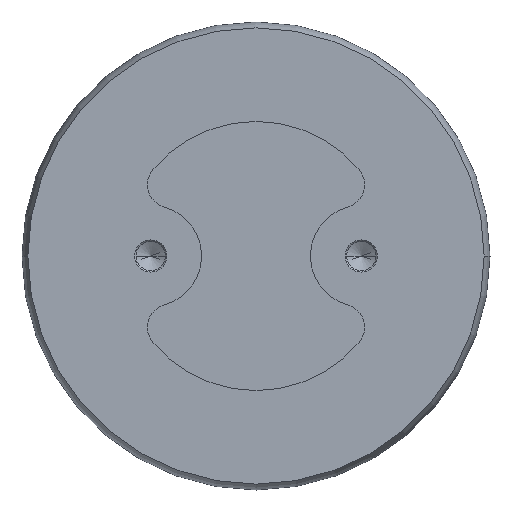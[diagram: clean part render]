
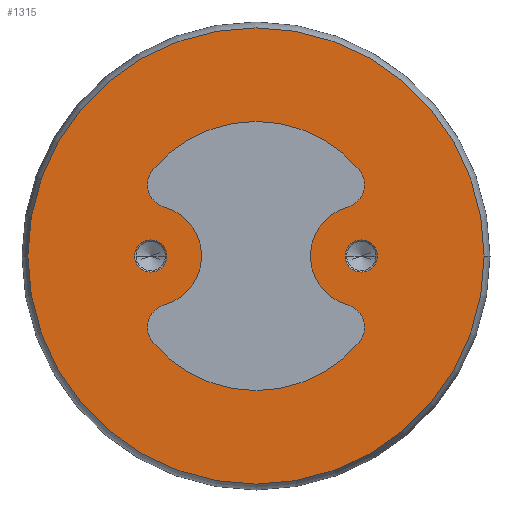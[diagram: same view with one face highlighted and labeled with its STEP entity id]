
A CAD part, front view. The second image highlights one B-rep face of the part: STEP entity #1315.
In plain terms, the highlighted planar face has unit normal (0, -1, 0).
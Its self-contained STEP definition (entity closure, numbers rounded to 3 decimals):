
#334=CARTESIAN_POINT('',(0.,-25.,0.));
#335=DIRECTION('',(0.,1.,0.));
#336=DIRECTION('',(1.,0.,0.));
#337=AXIS2_PLACEMENT_3D('',#334,#335,#336);
#339=CARTESIAN_POINT('',(0.,-25.,0.));
#340=DIRECTION('',(0.,-1.,0.));
#341=DIRECTION('',(1.,0.,0.));
#342=AXIS2_PLACEMENT_3D('',#339,#340,#341);
#344=CARTESIAN_POINT('',(18.,-25.,0.));
#345=DIRECTION('',(0.,-1.,0.));
#346=DIRECTION('',(1.,0.,0.));
#347=AXIS2_PLACEMENT_3D('',#344,#345,#346);
#349=CARTESIAN_POINT('',(18.,-25.,0.));
#350=DIRECTION('',(0.,-1.,0.));
#351=DIRECTION('',(-1.,0.,0.));
#352=AXIS2_PLACEMENT_3D('',#349,#350,#351);
#354=CARTESIAN_POINT('',(-18.,-25.,0.));
#355=DIRECTION('',(0.,1.,0.));
#356=DIRECTION('',(-1.,0.,0.));
#357=AXIS2_PLACEMENT_3D('',#354,#355,#356);
#359=CARTESIAN_POINT('',(-18.,-25.,0.));
#360=DIRECTION('',(0.,1.,0.));
#361=DIRECTION('',(1.,0.,0.));
#362=AXIS2_PLACEMENT_3D('',#359,#360,#361);
#364=CARTESIAN_POINT('',(14.555,-25.,-12.213));
#365=DIRECTION('',(0.,-1.,0.));
#366=DIRECTION('',(0.766,0.,-0.643));
#367=AXIS2_PLACEMENT_3D('',#364,#365,#366);
#369=CARTESIAN_POINT('',(18.001,-25.,0.));
#370=DIRECTION('',(0.,-1.,0.));
#371=DIRECTION('',(-0.272,0.,0.962));
#372=AXIS2_PLACEMENT_3D('',#369,#370,#371);
#374=CARTESIAN_POINT('',(14.555,-25.,12.213));
#375=DIRECTION('',(0.,-1.,0.));
#376=DIRECTION('',(0.272,0.,-0.962));
#377=AXIS2_PLACEMENT_3D('',#374,#375,#376);
#379=CARTESIAN_POINT('',(0.,-25.,0.));
#380=DIRECTION('',(0.,-1.,0.));
#381=DIRECTION('',(0.766,0.,0.643));
#382=AXIS2_PLACEMENT_3D('',#379,#380,#381);
#384=CARTESIAN_POINT('',(-14.555,-25.,12.213));
#385=DIRECTION('',(0.,-1.,0.));
#386=DIRECTION('',(-0.766,0.,0.643));
#387=AXIS2_PLACEMENT_3D('',#384,#385,#386);
#389=CARTESIAN_POINT('',(-18.001,-25.,0.));
#390=DIRECTION('',(0.,-1.,0.));
#391=DIRECTION('',(0.272,0.,-0.962));
#392=AXIS2_PLACEMENT_3D('',#389,#390,#391);
#394=CARTESIAN_POINT('',(-14.555,-25.,-12.213));
#395=DIRECTION('',(0.,-1.,0.));
#396=DIRECTION('',(-0.272,0.,0.962));
#397=AXIS2_PLACEMENT_3D('',#394,#395,#396);
#399=CARTESIAN_POINT('',(0.,-25.,0.));
#400=DIRECTION('',(0.,-1.,0.));
#401=DIRECTION('',(-0.766,0.,-0.643));
#402=AXIS2_PLACEMENT_3D('',#399,#400,#401);
#588=CARTESIAN_POINT('',(39.,-25.,0.));
#590=VERTEX_POINT('',#588);
#596=CARTESIAN_POINT('',(-39.,-25.,0.));
#598=VERTEX_POINT('',#596);
#646=CARTESIAN_POINT('',(20.75,-25.,0.));
#647=VERTEX_POINT('',#646);
#648=CARTESIAN_POINT('',(15.25,-25.,0.));
#649=VERTEX_POINT('',#648);
#660=CARTESIAN_POINT('',(-20.75,-25.,0.));
#661=VERTEX_POINT('',#660);
#662=CARTESIAN_POINT('',(-15.25,-25.,0.));
#663=VERTEX_POINT('',#662);
#720=CARTESIAN_POINT('',(17.619,-25.,-14.784));
#721=CARTESIAN_POINT('',(15.641,-25.,-8.363));
#722=VERTEX_POINT('',#720);
#723=VERTEX_POINT('',#721);
#724=CARTESIAN_POINT('',(15.641,-25.,8.363));
#725=VERTEX_POINT('',#724);
#726=CARTESIAN_POINT('',(17.619,-25.,14.784));
#727=VERTEX_POINT('',#726);
#728=CARTESIAN_POINT('',(-17.619,-25.,14.784));
#729=VERTEX_POINT('',#728);
#730=CARTESIAN_POINT('',(-15.641,-25.,8.363));
#731=VERTEX_POINT('',#730);
#732=CARTESIAN_POINT('',(-15.641,-25.,-8.363));
#733=VERTEX_POINT('',#732);
#734=CARTESIAN_POINT('',(-17.619,-25.,-14.784));
#735=VERTEX_POINT('',#734);
#1276=CARTESIAN_POINT('',(0.,-25.,0.));
#1277=DIRECTION('',(0.,-1.,0.));
#1278=DIRECTION('',(-1.,0.,0.));
#1279=AXIS2_PLACEMENT_3D('',#1276,#1277,#1278);
#1280=PLANE('166',#1279);
#1281=ORIENTED_EDGE('203',*,*,#1258,.T.);
#1282=ORIENTED_EDGE('169',*,*,#1269,.F.);
#1283=EDGE_LOOP('166',(#1281,#1282));
#1284=FACE_OUTER_BOUND('166',#1283,.F.);
#1286=ORIENTED_EDGE('440',*,*,#1285,.T.);
#1288=ORIENTED_EDGE('441',*,*,#1287,.T.);
#1289=EDGE_LOOP('166',(#1286,#1288));
#1290=FACE_BOUND('166',#1289,.F.);
#1292=ORIENTED_EDGE('448',*,*,#1291,.F.);
#1294=ORIENTED_EDGE('449',*,*,#1293,.F.);
#1295=EDGE_LOOP('166',(#1292,#1294));
#1296=FACE_BOUND('166',#1295,.F.);
#1298=ORIENTED_EDGE('585',*,*,#1297,.T.);
#1300=ORIENTED_EDGE('586',*,*,#1299,.F.);
#1302=ORIENTED_EDGE('587',*,*,#1301,.T.);
#1304=ORIENTED_EDGE('588',*,*,#1303,.T.);
#1306=ORIENTED_EDGE('589',*,*,#1305,.T.);
#1308=ORIENTED_EDGE('590',*,*,#1307,.F.);
#1310=ORIENTED_EDGE('591',*,*,#1309,.T.);
#1312=ORIENTED_EDGE('592',*,*,#1311,.T.);
#1313=EDGE_LOOP('166',(#1298,#1300,#1302,#1304,#1306,#1308,#1310,#1312));
#1314=FACE_BOUND('166',#1313,.F.);
#1315=ADVANCED_FACE('166',(#1284,#1290,#1296,#1314),#1280,.T.);
#338=CIRCLE('203',#337,39.);
#343=CIRCLE('169',#342,39.);
#348=CIRCLE('440',#347,2.75);
#353=CIRCLE('441',#352,2.75);
#358=CIRCLE('448',#357,2.75);
#363=CIRCLE('449',#362,2.75);
#368=CIRCLE('585',#367,4.);
#373=CIRCLE('586',#372,8.69);
#378=CIRCLE('587',#377,4.);
#383=CIRCLE('588',#382,23.);
#388=CIRCLE('589',#387,4.);
#393=CIRCLE('590',#392,8.69);
#398=CIRCLE('591',#397,4.);
#403=CIRCLE('592',#402,23.);
#1258=EDGE_CURVE('203',#590,#598,#338,.T.);
#1269=EDGE_CURVE('169',#590,#598,#343,.T.);
#1285=EDGE_CURVE('440',#647,#649,#348,.T.);
#1287=EDGE_CURVE('441',#649,#647,#353,.T.);
#1291=EDGE_CURVE('448',#661,#663,#358,.T.);
#1293=EDGE_CURVE('449',#663,#661,#363,.T.);
#1297=EDGE_CURVE('585',#722,#723,#368,.T.);
#1299=EDGE_CURVE('586',#725,#723,#373,.T.);
#1301=EDGE_CURVE('587',#725,#727,#378,.T.);
#1303=EDGE_CURVE('588',#727,#729,#383,.T.);
#1305=EDGE_CURVE('589',#729,#731,#388,.T.);
#1307=EDGE_CURVE('590',#733,#731,#393,.T.);
#1309=EDGE_CURVE('591',#733,#735,#398,.T.);
#1311=EDGE_CURVE('592',#735,#722,#403,.T.);
